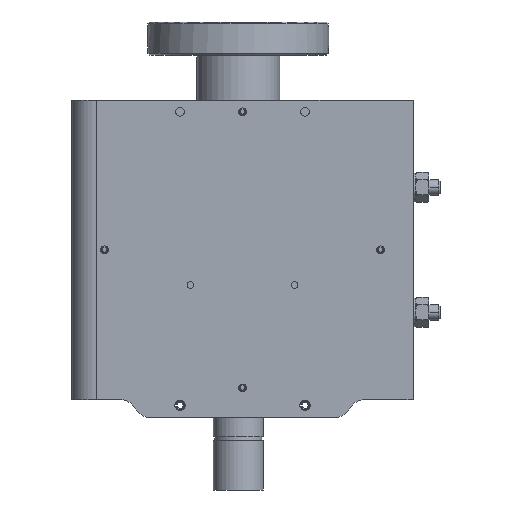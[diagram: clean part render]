
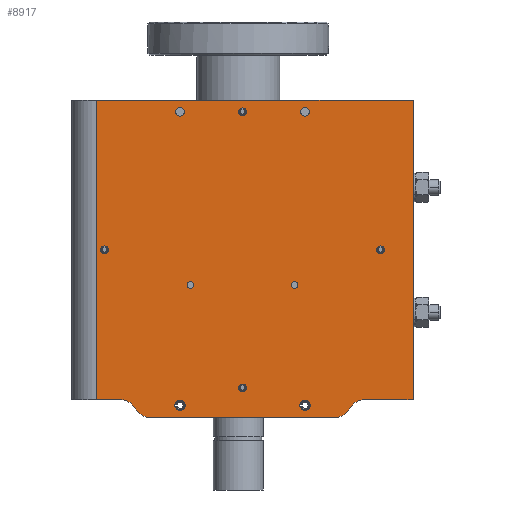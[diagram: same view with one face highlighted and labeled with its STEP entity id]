
A CAD part, front view. The second image highlights one B-rep face of the part: STEP entity #8917.
In plain terms, the highlighted planar face has unit normal (0, -1, 0).
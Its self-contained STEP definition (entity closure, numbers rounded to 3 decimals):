
#37=CARTESIAN_POINT('',(30.524,3.446,-145.));
#38=DIRECTION('',(0.,-1.,0.));
#39=DIRECTION('',(-0.866,0.,-0.5));
#40=AXIS2_PLACEMENT_3D('',#37,#38,#39);
#42=DIRECTION('',(1.,0.,0.));
#43=VECTOR('',#42,8.875);
#44=CARTESIAN_POINT('',(9.525,3.446,-145.));
#45=LINE('',#44,#43);
#46=DIRECTION('',(-1.,0.,0.));
#47=VECTOR('',#46,18.4);
#48=CARTESIAN_POINT('',(131.,3.446,-145.));
#49=LINE('',#48,#47);
#50=CARTESIAN_POINT('',(100.476,3.446,-145.));
#51=DIRECTION('',(0.,-1.,0.));
#52=DIRECTION('',(0.,0.,-1.));
#53=AXIS2_PLACEMENT_3D('',#50,#51,#52);
#55=DIRECTION('',(-1.,0.,0.));
#56=VECTOR('',#55,69.951);
#57=CARTESIAN_POINT('',(100.476,3.446,-152.));
#58=LINE('',#57,#56);
#59=CARTESIAN_POINT('',(12.5,3.446,-87.5));
#60=DIRECTION('',(0.,1.,0.));
#61=DIRECTION('',(-1.,0.,0.));
#62=AXIS2_PLACEMENT_3D('',#59,#60,#61);
#64=CARTESIAN_POINT('',(12.5,3.446,-87.5));
#65=DIRECTION('',(0.,1.,0.));
#66=DIRECTION('',(1.,0.,0.));
#67=AXIS2_PLACEMENT_3D('',#64,#65,#66);
#69=CARTESIAN_POINT('',(65.5,3.446,-140.5));
#70=DIRECTION('',(0.,1.,0.));
#71=DIRECTION('',(-1.,0.,0.));
#72=AXIS2_PLACEMENT_3D('',#69,#70,#71);
#74=CARTESIAN_POINT('',(65.5,3.446,-140.5));
#75=DIRECTION('',(0.,1.,0.));
#76=DIRECTION('',(1.,0.,0.));
#77=AXIS2_PLACEMENT_3D('',#74,#75,#76);
#79=CARTESIAN_POINT('',(65.5,3.446,-34.5));
#80=DIRECTION('',(0.,1.,0.));
#81=DIRECTION('',(-1.,0.,0.));
#82=AXIS2_PLACEMENT_3D('',#79,#80,#81);
#84=CARTESIAN_POINT('',(65.5,3.446,-34.5));
#85=DIRECTION('',(0.,1.,0.));
#86=DIRECTION('',(1.,0.,0.));
#87=AXIS2_PLACEMENT_3D('',#84,#85,#86);
#89=CARTESIAN_POINT('',(118.5,3.446,-87.5));
#90=DIRECTION('',(0.,1.,0.));
#91=DIRECTION('',(-1.,0.,0.));
#92=AXIS2_PLACEMENT_3D('',#89,#90,#91);
#94=CARTESIAN_POINT('',(118.5,3.446,-87.5));
#95=DIRECTION('',(0.,1.,0.));
#96=DIRECTION('',(1.,0.,0.));
#97=AXIS2_PLACEMENT_3D('',#94,#95,#96);
#99=CARTESIAN_POINT('',(89.5,3.446,-34.5));
#100=DIRECTION('',(0.,1.,0.));
#101=DIRECTION('',(-1.,0.,0.));
#102=AXIS2_PLACEMENT_3D('',#99,#100,#101);
#104=CARTESIAN_POINT('',(89.5,3.446,-34.5));
#105=DIRECTION('',(0.,1.,0.));
#106=DIRECTION('',(1.,0.,0.));
#107=AXIS2_PLACEMENT_3D('',#104,#105,#106);
#109=CARTESIAN_POINT('',(41.5,3.446,-34.5));
#110=DIRECTION('',(0.,1.,0.));
#111=DIRECTION('',(-1.,0.,0.));
#112=AXIS2_PLACEMENT_3D('',#109,#110,#111);
#114=CARTESIAN_POINT('',(41.5,3.446,-34.5));
#115=DIRECTION('',(0.,1.,0.));
#116=DIRECTION('',(1.,0.,0.));
#117=AXIS2_PLACEMENT_3D('',#114,#115,#116);
#119=CARTESIAN_POINT('',(85.5,3.446,-101.));
#120=DIRECTION('',(0.,1.,0.));
#121=DIRECTION('',(-1.,0.,0.));
#122=AXIS2_PLACEMENT_3D('',#119,#120,#121);
#124=CARTESIAN_POINT('',(85.5,3.446,-101.));
#125=DIRECTION('',(0.,1.,0.));
#126=DIRECTION('',(1.,0.,0.));
#127=AXIS2_PLACEMENT_3D('',#124,#125,#126);
#129=CARTESIAN_POINT('',(45.5,3.446,-101.));
#130=DIRECTION('',(0.,1.,0.));
#131=DIRECTION('',(-1.,0.,0.));
#132=AXIS2_PLACEMENT_3D('',#129,#130,#131);
#134=CARTESIAN_POINT('',(45.5,3.446,-101.));
#135=DIRECTION('',(0.,1.,0.));
#136=DIRECTION('',(1.,0.,0.));
#137=AXIS2_PLACEMENT_3D('',#134,#135,#136);
#139=CARTESIAN_POINT('',(41.5,3.446,-147.2));
#140=DIRECTION('',(0.,1.,0.));
#141=DIRECTION('',(-1.,0.,0.));
#142=AXIS2_PLACEMENT_3D('',#139,#140,#141);
#144=CARTESIAN_POINT('',(41.5,3.446,-147.2));
#145=DIRECTION('',(0.,1.,0.));
#146=DIRECTION('',(1.,0.,0.));
#147=AXIS2_PLACEMENT_3D('',#144,#145,#146);
#149=CARTESIAN_POINT('',(89.5,3.446,-147.2));
#150=DIRECTION('',(0.,1.,0.));
#151=DIRECTION('',(-1.,0.,0.));
#152=AXIS2_PLACEMENT_3D('',#149,#150,#151);
#154=CARTESIAN_POINT('',(89.5,3.446,-147.2));
#155=DIRECTION('',(0.,1.,0.));
#156=DIRECTION('',(1.,0.,0.));
#157=AXIS2_PLACEMENT_3D('',#154,#155,#156);
#331=CARTESIAN_POINT('',(112.6,3.446,-152.));
#332=DIRECTION('',(0.,1.,0.));
#333=DIRECTION('',(-0.866,0.,0.5));
#334=AXIS2_PLACEMENT_3D('',#331,#332,#333);
#349=DIRECTION('',(0.,0.,1.));
#350=VECTOR('',#349,115.);
#351=CARTESIAN_POINT('',(131.,3.446,-145.));
#352=LINE('',#351,#350);
#413=DIRECTION('',(1.,0.,0.));
#414=VECTOR('',#413,121.475);
#415=CARTESIAN_POINT('',(9.525,3.446,-30.));
#416=LINE('',#415,#414);
#452=DIRECTION('',(0.,0.,-1.));
#453=VECTOR('',#452,115.);
#454=CARTESIAN_POINT('',(9.525,3.446,-30.));
#455=LINE('',#454,#453);
#3346=CARTESIAN_POINT('',(18.4,3.446,-152.));
#3347=DIRECTION('',(0.,1.,0.));
#3348=DIRECTION('',(0.,0.,1.));
#3349=AXIS2_PLACEMENT_3D('',#3346,#3347,#3348);
#7926=CARTESIAN_POINT('',(9.525,3.446,-30.));
#7928=VERTEX_POINT('',#7926);
#7929=CARTESIAN_POINT('',(131.,3.446,-30.));
#7930=VERTEX_POINT('',#7929);
#7935=CARTESIAN_POINT('',(11.,3.446,-87.5));
#7936=CARTESIAN_POINT('',(14.,3.446,-87.5));
#7937=VERTEX_POINT('',#7935);
#7938=VERTEX_POINT('',#7936);
#7939=CARTESIAN_POINT('',(64.,3.446,-140.5));
#7940=CARTESIAN_POINT('',(67.,3.446,-140.5));
#7941=VERTEX_POINT('',#7939);
#7942=VERTEX_POINT('',#7940);
#7943=CARTESIAN_POINT('',(64.,3.446,-34.5));
#7944=CARTESIAN_POINT('',(67.,3.446,-34.5));
#7945=VERTEX_POINT('',#7943);
#7946=VERTEX_POINT('',#7944);
#7947=CARTESIAN_POINT('',(117.,3.446,-87.5));
#7948=CARTESIAN_POINT('',(120.,3.446,-87.5));
#7949=VERTEX_POINT('',#7947);
#7950=VERTEX_POINT('',#7948);
#7951=CARTESIAN_POINT('',(87.85,3.446,-34.5));
#7952=CARTESIAN_POINT('',(91.15,3.446,-34.5));
#7953=VERTEX_POINT('',#7951);
#7954=VERTEX_POINT('',#7952);
#7959=CARTESIAN_POINT('',(39.85,3.446,-34.5));
#7960=CARTESIAN_POINT('',(43.15,3.446,-34.5));
#7961=VERTEX_POINT('',#7959);
#7962=VERTEX_POINT('',#7960);
#7976=CARTESIAN_POINT('',(9.525,3.446,-145.));
#7978=VERTEX_POINT('',#7976);
#7981=CARTESIAN_POINT('',(131.,3.446,-145.));
#7982=VERTEX_POINT('',#7981);
#7985=CARTESIAN_POINT('',(112.6,3.446,-145.));
#7986=VERTEX_POINT('',#7985);
#7987=CARTESIAN_POINT('',(18.4,3.446,-145.));
#7988=VERTEX_POINT('',#7987);
#7997=CARTESIAN_POINT('',(24.462,3.446,-148.5));
#7998=VERTEX_POINT('',#7997);
#7999=CARTESIAN_POINT('',(30.524,3.446,-152.));
#8000=VERTEX_POINT('',#7999);
#8001=CARTESIAN_POINT('',(100.476,3.446,-152.));
#8002=CARTESIAN_POINT('',(106.538,3.446,-148.5));
#8003=VERTEX_POINT('',#8001);
#8004=VERTEX_POINT('',#8002);
#8009=CARTESIAN_POINT('',(39.5,3.446,-147.2));
#8010=CARTESIAN_POINT('',(43.5,3.446,-147.2));
#8011=VERTEX_POINT('',#8009);
#8012=VERTEX_POINT('',#8010);
#8015=CARTESIAN_POINT('',(87.5,3.446,-147.2));
#8016=CARTESIAN_POINT('',(91.5,3.446,-147.2));
#8017=VERTEX_POINT('',#8015);
#8018=VERTEX_POINT('',#8016);
#8021=CARTESIAN_POINT('',(84.25,3.446,-101.));
#8022=CARTESIAN_POINT('',(86.75,3.446,-101.));
#8023=VERTEX_POINT('',#8021);
#8024=VERTEX_POINT('',#8022);
#8025=CARTESIAN_POINT('',(44.25,3.446,-101.));
#8026=CARTESIAN_POINT('',(46.75,3.446,-101.));
#8027=VERTEX_POINT('',#8025);
#8028=VERTEX_POINT('',#8026);
#8832=CARTESIAN_POINT('',(9.525,3.446,-30.));
#8833=DIRECTION('',(0.,-1.,0.));
#8834=DIRECTION('',(1.,0.,0.));
#8835=AXIS2_PLACEMENT_3D('',#8832,#8833,#8834);
#8836=PLANE('',#8835);
#8838=ORIENTED_EDGE('',*,*,#8837,.F.);
#8840=ORIENTED_EDGE('',*,*,#8839,.F.);
#8842=ORIENTED_EDGE('',*,*,#8841,.F.);
#8844=ORIENTED_EDGE('',*,*,#8843,.F.);
#8846=ORIENTED_EDGE('',*,*,#8845,.T.);
#8848=ORIENTED_EDGE('',*,*,#8847,.F.);
#8850=ORIENTED_EDGE('',*,*,#8849,.T.);
#8852=ORIENTED_EDGE('',*,*,#8851,.F.);
#8854=ORIENTED_EDGE('',*,*,#8853,.F.);
#8856=ORIENTED_EDGE('',*,*,#8855,.T.);
#8857=EDGE_LOOP('',(#8838,#8840,#8842,#8844,#8846,#8848,#8850,#8852,#8854,
#8856));
#8858=FACE_OUTER_BOUND('',#8857,.F.);
#8860=ORIENTED_EDGE('',*,*,#8859,.F.);
#8862=ORIENTED_EDGE('',*,*,#8861,.F.);
#8863=EDGE_LOOP('',(#8860,#8862));
#8864=FACE_BOUND('',#8863,.F.);
#8866=ORIENTED_EDGE('',*,*,#8865,.F.);
#8868=ORIENTED_EDGE('',*,*,#8867,.F.);
#8869=EDGE_LOOP('',(#8866,#8868));
#8870=FACE_BOUND('',#8869,.F.);
#8872=ORIENTED_EDGE('',*,*,#8871,.F.);
#8874=ORIENTED_EDGE('',*,*,#8873,.F.);
#8875=EDGE_LOOP('',(#8872,#8874));
#8876=FACE_BOUND('',#8875,.F.);
#8877=ORIENTED_EDGE('',*,*,#8805,.F.);
#8878=ORIENTED_EDGE('',*,*,#8826,.F.);
#8879=EDGE_LOOP('',(#8877,#8878));
#8880=FACE_BOUND('',#8879,.F.);
#8882=ORIENTED_EDGE('',*,*,#8881,.F.);
#8884=ORIENTED_EDGE('',*,*,#8883,.F.);
#8885=EDGE_LOOP('',(#8882,#8884));
#8886=FACE_BOUND('',#8885,.F.);
#8888=ORIENTED_EDGE('',*,*,#8887,.F.);
#8890=ORIENTED_EDGE('',*,*,#8889,.F.);
#8891=EDGE_LOOP('',(#8888,#8890));
#8892=FACE_BOUND('',#8891,.F.);
#8894=ORIENTED_EDGE('',*,*,#8893,.F.);
#8896=ORIENTED_EDGE('',*,*,#8895,.F.);
#8897=EDGE_LOOP('',(#8894,#8896));
#8898=FACE_BOUND('',#8897,.F.);
#8900=ORIENTED_EDGE('',*,*,#8899,.F.);
#8902=ORIENTED_EDGE('',*,*,#8901,.F.);
#8903=EDGE_LOOP('',(#8900,#8902));
#8904=FACE_BOUND('',#8903,.F.);
#8906=ORIENTED_EDGE('',*,*,#8905,.F.);
#8908=ORIENTED_EDGE('',*,*,#8907,.F.);
#8909=EDGE_LOOP('',(#8906,#8908));
#8910=FACE_BOUND('',#8909,.F.);
#8912=ORIENTED_EDGE('',*,*,#8911,.F.);
#8914=ORIENTED_EDGE('',*,*,#8913,.F.);
#8915=EDGE_LOOP('',(#8912,#8914));
#8916=FACE_BOUND('',#8915,.F.);
#8917=ADVANCED_FACE('',(#8858,#8864,#8870,#8876,#8880,#8886,#8892,#8898,#8904,
#8910,#8916),#8836,.T.);
#41=CIRCLE('',#40,7.);
#54=CIRCLE('',#53,7.);
#63=CIRCLE('',#62,1.5);
#68=CIRCLE('',#67,1.5);
#73=CIRCLE('',#72,1.5);
#78=CIRCLE('',#77,1.5);
#83=CIRCLE('',#82,1.5);
#88=CIRCLE('',#87,1.5);
#93=CIRCLE('',#92,1.5);
#98=CIRCLE('',#97,1.5);
#103=CIRCLE('',#102,1.65);
#108=CIRCLE('',#107,1.65);
#113=CIRCLE('',#112,1.65);
#118=CIRCLE('',#117,1.65);
#123=CIRCLE('',#122,1.25);
#128=CIRCLE('',#127,1.25);
#133=CIRCLE('',#132,1.25);
#138=CIRCLE('',#137,1.25);
#143=CIRCLE('',#142,2.);
#148=CIRCLE('',#147,2.);
#153=CIRCLE('',#152,2.);
#158=CIRCLE('',#157,2.);
#335=CIRCLE('',#334,7.);
#3350=CIRCLE('',#3349,7.);
#8805=EDGE_CURVE('',#7949,#7950,#93,.T.);
#8826=EDGE_CURVE('',#7950,#7949,#98,.T.);
#8837=EDGE_CURVE('',#7998,#8000,#41,.T.);
#8839=EDGE_CURVE('',#7988,#7998,#3350,.T.);
#8841=EDGE_CURVE('',#7978,#7988,#45,.T.);
#8843=EDGE_CURVE('',#7928,#7978,#455,.T.);
#8845=EDGE_CURVE('',#7928,#7930,#416,.T.);
#8847=EDGE_CURVE('',#7982,#7930,#352,.T.);
#8849=EDGE_CURVE('',#7982,#7986,#49,.T.);
#8851=EDGE_CURVE('',#8004,#7986,#335,.T.);
#8853=EDGE_CURVE('',#8003,#8004,#54,.T.);
#8855=EDGE_CURVE('',#8003,#8000,#58,.T.);
#8859=EDGE_CURVE('',#7937,#7938,#63,.T.);
#8861=EDGE_CURVE('',#7938,#7937,#68,.T.);
#8865=EDGE_CURVE('',#7941,#7942,#73,.T.);
#8867=EDGE_CURVE('',#7942,#7941,#78,.T.);
#8871=EDGE_CURVE('',#7945,#7946,#83,.T.);
#8873=EDGE_CURVE('',#7946,#7945,#88,.T.);
#8881=EDGE_CURVE('',#7953,#7954,#103,.T.);
#8883=EDGE_CURVE('',#7954,#7953,#108,.T.);
#8887=EDGE_CURVE('',#7961,#7962,#113,.T.);
#8889=EDGE_CURVE('',#7962,#7961,#118,.T.);
#8893=EDGE_CURVE('',#8023,#8024,#123,.T.);
#8895=EDGE_CURVE('',#8024,#8023,#128,.T.);
#8899=EDGE_CURVE('',#8027,#8028,#133,.T.);
#8901=EDGE_CURVE('',#8028,#8027,#138,.T.);
#8905=EDGE_CURVE('',#8011,#8012,#143,.T.);
#8907=EDGE_CURVE('',#8012,#8011,#148,.T.);
#8911=EDGE_CURVE('',#8017,#8018,#153,.T.);
#8913=EDGE_CURVE('',#8018,#8017,#158,.T.);
